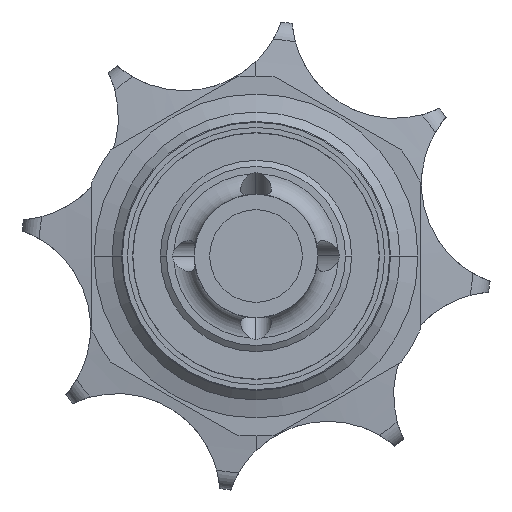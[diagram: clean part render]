
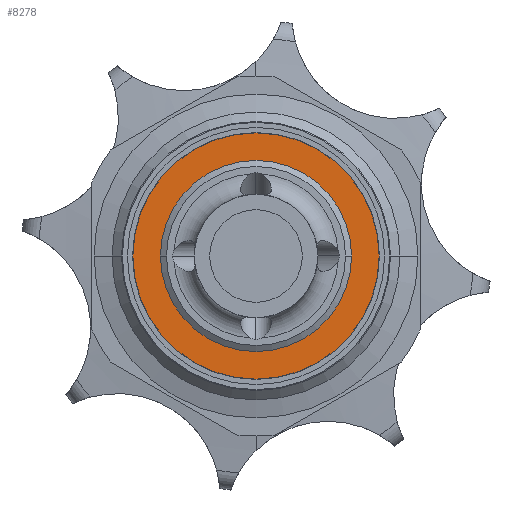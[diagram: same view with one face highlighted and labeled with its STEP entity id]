
A CAD part, left-side view. The second image highlights one B-rep face of the part: STEP entity #8278.
In plain terms, the highlighted planar face has unit normal (-1, 0, 0).
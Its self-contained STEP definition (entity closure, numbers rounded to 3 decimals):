
#4761=CARTESIAN_POINT('',(19.5,0.,0.));
#4762=DIRECTION('',(-1.,0.,0.));
#4763=DIRECTION('',(0.,-1.,0.));
#4764=AXIS2_PLACEMENT_3D('',#4761,#4762,#4763);
#4766=CARTESIAN_POINT('',(19.5,0.,0.));
#4767=DIRECTION('',(-1.,0.,0.));
#4768=DIRECTION('',(0.,1.,0.));
#4769=AXIS2_PLACEMENT_3D('',#4766,#4767,#4768);
#4771=CARTESIAN_POINT('',(19.5,0.,0.));
#4772=DIRECTION('',(1.,0.,0.));
#4773=DIRECTION('',(0.,1.,0.));
#4774=AXIS2_PLACEMENT_3D('',#4771,#4772,#4773);
#4776=CARTESIAN_POINT('',(19.5,0.,0.));
#4777=DIRECTION('',(1.,0.,0.));
#4778=DIRECTION('',(0.,-1.,0.));
#4779=AXIS2_PLACEMENT_3D('',#4776,#4777,#4778);
#5039=CARTESIAN_POINT('',(19.5,-11.975,0.));
#5040=CARTESIAN_POINT('',(19.5,11.975,0.));
#5041=VERTEX_POINT('',#5039);
#5042=VERTEX_POINT('',#5040);
#5055=CARTESIAN_POINT('',(19.5,9.293,0.));
#5056=CARTESIAN_POINT('',(19.5,-9.293,0.));
#5057=VERTEX_POINT('',#5055);
#5058=VERTEX_POINT('',#5056);
#8262=CARTESIAN_POINT('',(19.5,0.,0.));
#8263=DIRECTION('',(-1.,0.,0.));
#8264=DIRECTION('',(0.,-1.,0.));
#8265=AXIS2_PLACEMENT_3D('',#8262,#8263,#8264);
#8266=PLANE('',#8265);
#8268=ORIENTED_EDGE('',*,*,#8267,.F.);
#8270=ORIENTED_EDGE('',*,*,#8269,.F.);
#8271=EDGE_LOOP('',(#8268,#8270));
#8272=FACE_OUTER_BOUND('',#8271,.F.);
#8273=ORIENTED_EDGE('',*,*,#8245,.F.);
#8275=ORIENTED_EDGE('',*,*,#8274,.F.);
#8276=EDGE_LOOP('',(#8273,#8275));
#8277=FACE_BOUND('',#8276,.F.);
#4765=CIRCLE('',#4764,11.975);
#4770=CIRCLE('',#4769,11.975);
#4775=CIRCLE('',#4774,9.293);
#4780=CIRCLE('',#4779,9.293);
#8245=EDGE_CURVE('',#5057,#5058,#4775,.T.);
#8267=EDGE_CURVE('',#5041,#5042,#4765,.T.);
#8269=EDGE_CURVE('',#5042,#5041,#4770,.T.);
#8274=EDGE_CURVE('',#5058,#5057,#4780,.T.);
#8278=ADVANCED_FACE('',(#8272,#8277),#8266,.T.);
